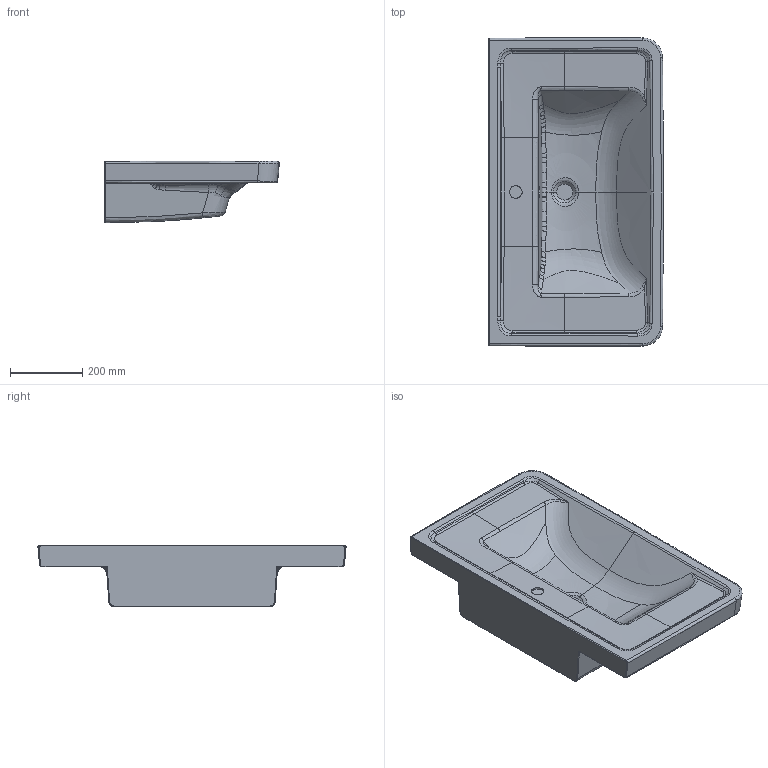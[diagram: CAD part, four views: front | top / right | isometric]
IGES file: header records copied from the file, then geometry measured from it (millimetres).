
Start section:  PTC IGES file: lw137y-web.igs
Global section: file name: lw137y-web.igs; native system: Creo Parametric by Parametric Technology Corporation; preprocessor: 2013050; author: Uporabnik; organization: Unknown; date: 20150119.133718; units: millimetre
Bounding box: 482.72 x 852.65 x 170.01 mm (x, y, z)
Volume: 26923300 mm3; surface area: 1153491.5 mm2
Topology: 1 solids, 1 shells, 236 faces, 610 edges, 375 vertices
Faces by surface type: bspline 199, revolution 37
